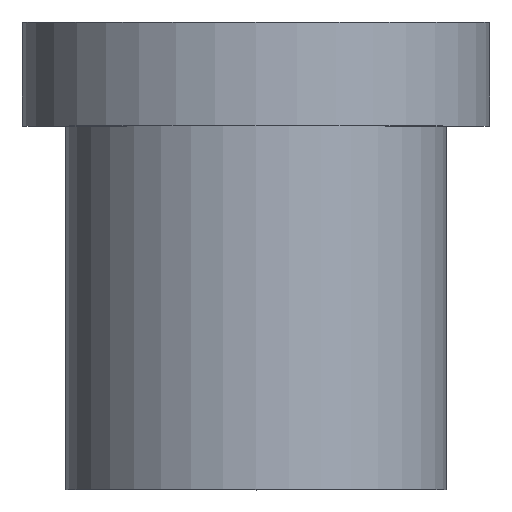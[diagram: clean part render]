
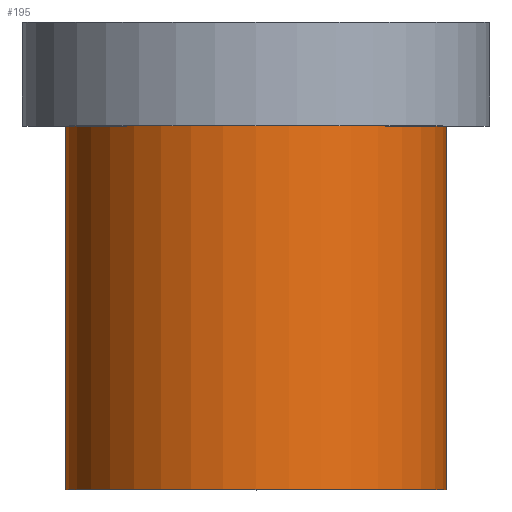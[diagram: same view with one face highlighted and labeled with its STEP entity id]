
A CAD part, top view. The second image highlights one B-rep face of the part: STEP entity #195.
In plain terms, the highlighted cylindrical face has radius 11 mm (diameter 22 mm), a full revolution.
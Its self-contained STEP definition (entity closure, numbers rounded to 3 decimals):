
#32=ORIENTED_EDGE('',*,*,#50,.T.);
#33=ORIENTED_EDGE('',*,*,#49,.F.);
#49=EDGE_CURVE('',#59,#59,#69,.T.);
#50=EDGE_CURVE('',#60,#60,#70,.T.);
#59=VERTEX_POINT('',#280);
#60=VERTEX_POINT('',#283);
#69=CIRCLE('',#213,11.);
#70=CIRCLE('',#215,11.);
#82=EDGE_LOOP('',(#32));
#83=EDGE_LOOP('',(#33));
#102=FACE_BOUND('',#82,.T.);
#103=FACE_BOUND('',#83,.T.);
#117=CYLINDRICAL_SURFACE('',#214,11.);
#195=ADVANCED_FACE('',(#102,#103),#117,.T.);
#213=AXIS2_PLACEMENT_3D('',#279,#241,#242);
#214=AXIS2_PLACEMENT_3D('',#281,#243,#244);
#215=AXIS2_PLACEMENT_3D('',#282,#245,#246);
#241=DIRECTION('',(0.,-1.,0.));
#242=DIRECTION('',(0.,0.,-1.));
#243=DIRECTION('',(0.,-1.,0.));
#244=DIRECTION('',(0.,0.,-1.));
#245=DIRECTION('',(0.,-1.,0.));
#246=DIRECTION('',(0.,0.,-1.));
#279=CARTESIAN_POINT('',(0.,0.,0.));
#280=CARTESIAN_POINT('',(0.,0.,-11.));
#281=CARTESIAN_POINT('',(0.,0.,0.));
#282=CARTESIAN_POINT('',(0.,21.,0.));
#283=CARTESIAN_POINT('',(0.,21.,-11.));
